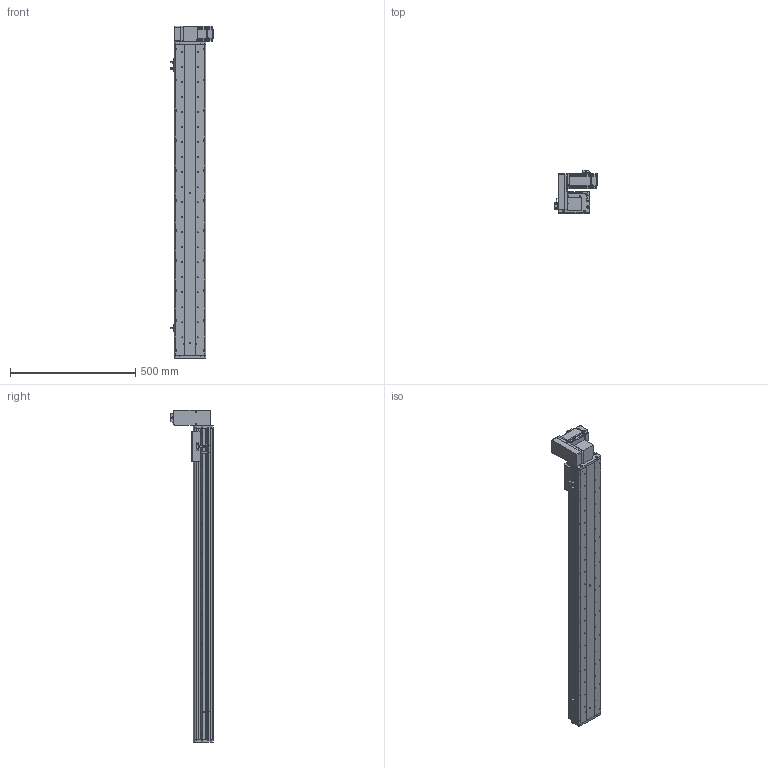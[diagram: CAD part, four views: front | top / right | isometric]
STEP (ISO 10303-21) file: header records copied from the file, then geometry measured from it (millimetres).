
FILE_DESCRIPTION (( 'STEP AP214' ), '1' );
FILE_NAME ('KSD125B-S1050-MRU-CM.STEP', '2017-10-21T07:41:05', ( '微软用户' ), ( '微软中国' ), 'SwSTEP 2.0', 'SolidWorks 2014', '' );
FILE_SCHEMA (( 'AUTOMOTIVE_DESIGN' ));
Length unit declared in the file: millimetre
Products named in the file (17): 100宽马达安装板连板上下折丝杆同步带; KSD125模组1050行程同步带-防尘盖; 125模组1050行程同步带-底板; MHMD042G1CA_2_03; KSD125模组同步带-防撞垫2; 覜茼え68遵圉猾敕; U倰嫖萇假蚾璃; U倰嫖萇EEㄜSX672; KSD125模组同步带-防撞垫1; 100宽马达安装板同步带右; 前端板-125宽模组同步带; 125模组同步带-尾端板1; KSD125模组同步带-滑动座1; KSD125B-S1050-MRU-CM; 悵誘欶奻狟殏; HTPA30S3M150_A_H6_a佪裝蚚; HTPA30S3M150_A_H6_a萇儂蚚
Assembly tree (20 placements, depth 2):
  KSD125B-S1050-MRU-CM
    KSD125模组同步带-滑动座1
    125模组同步带-尾端板1
    前端板-125宽模组同步带
    100宽马达安装板同步带右
    KSD125模组同步带-防撞垫1
    U倰嫖萇EEㄜSX672  x3
    U倰嫖萇假蚾璃  x3
    覜茼え68遵圉猾敕
    KSD125模组同步带-防撞垫2
    MHMD042G1CA_2_03
    125模组1050行程同步带-底板
    KSD125模组1050行程同步带-防尘盖
    100宽马达安装板连板上下折丝杆同步带
    HTPA30S3M150_A_H6_a萇儂蚚
    HTPA30S3M150_A_H6_a佪裝蚚
    悵誘欶奻狟殏
Bounding box: 168.7 x 170.5 x 1327 mm (x, y, z)
Volume: 4058223.9 mm3; surface area: 1363270.2 mm2
Topology: 19 solids, 22 shells, 2325 faces, 6739 edges, 4454 vertices
Faces by surface type: cylinder 1468, plane 730, cone 105, bspline 22
Entity records: 82901 total; most frequent: CARTESIAN_POINT 16353, DIRECTION 12884, ORIENTED_EDGE 11998, EDGE_CURVE 6077, AXIS2_PLACEMENT_3D 4989, VERTEX_POINT 4046, VECTOR 2906, LINE 2906
